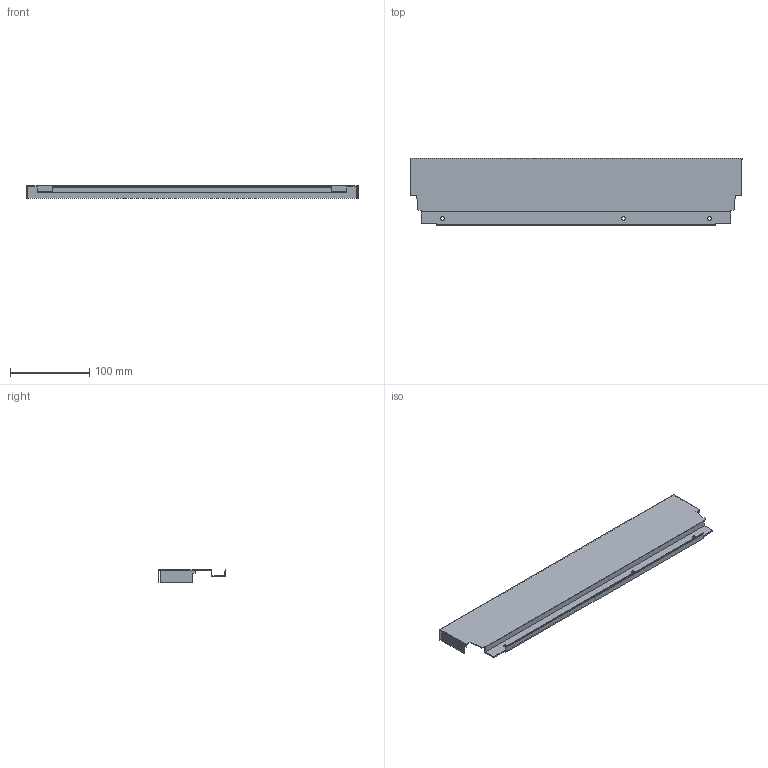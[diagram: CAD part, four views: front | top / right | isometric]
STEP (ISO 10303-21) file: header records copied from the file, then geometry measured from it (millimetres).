
FILE_DESCRIPTION (( 'STEP AP214' ), '1' );
FILE_NAME ('_DWD_XP Stahlrückwand_H86_KAB500_S16.step', '2010-07-08T12:09:55', ( 'grass' ), ( '' ), 'SwSTEP 2.0', 'SolidWorks 2010', '' );
FILE_SCHEMA (( 'AUTOMOTIVE_DESIGN' ));
Length unit declared in the file: millimetre
Products named in the file (1): _DWD_XP Stahlrückwand_H86_KAB500_S16
Bounding box: 419 x 85.79 x 16 mm (x, y, z)
Volume: 44398.1 mm3; surface area: 97072.2 mm2
Topology: 1 solids, 1 shells, 50 faces, 144 edges, 96 vertices
Faces by surface type: plane 44, cylinder 6
Entity records: 1666 total; most frequent: CARTESIAN_POINT 291, ORIENTED_EDGE 288, DIRECTION 258, EDGE_CURVE 144, LINE 132, VECTOR 132, VERTEX_POINT 96, AXIS2_PLACEMENT_3D 63
